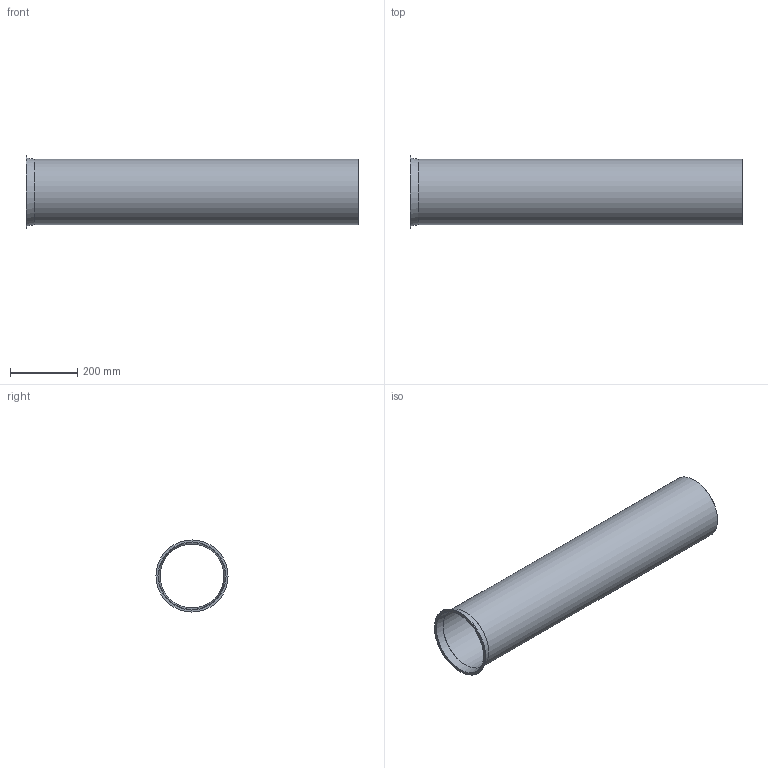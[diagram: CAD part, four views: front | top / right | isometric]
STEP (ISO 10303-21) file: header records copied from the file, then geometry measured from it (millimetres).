
FILE_DESCRIPTION((''),'2;1');
FILE_NAME('U:\Wolfgang\Marcel-3D\fertig\Kapitel 1\2011006.stp','2010-05-31T11:17:06',('TK2'),(''),'Autodesk Inventor 2010','Autodesk Inventor 2010','');
FILE_SCHEMA(('AUTOMOTIVE_DESIGN { 1 0 10303 214 1 1 1 1 }'));
Length unit declared in the file: millimetre
Products named in the file (1): 2011006
Bounding box: 991 x 215 x 215 mm (x, y, z)
Volume: 1210539.8 mm3; surface area: 1213092.5 mm2
Topology: 1 solids, 1 shells, 8 faces, 14 edges, 9 vertices
Faces by surface type: cylinder 3, plane 3, cone 2
Full cylindrical faces by diameter (mm): 191 x1, 195 x1, 215 x1
Entity records: 194 total; most frequent: DIRECTION 34, CARTESIAN_POINT 25, AXIS2_PLACEMENT_3D 17, ORIENTED_EDGE 16, EDGE_LOOP 16, VERTEX_POINT 8, CIRCLE 8, EDGE_CURVE 8
